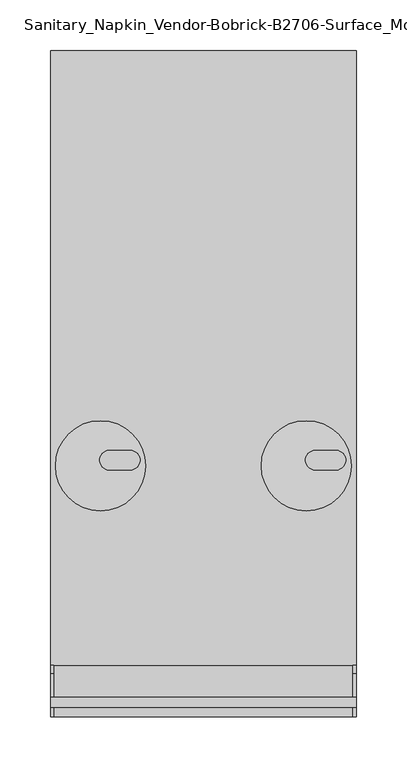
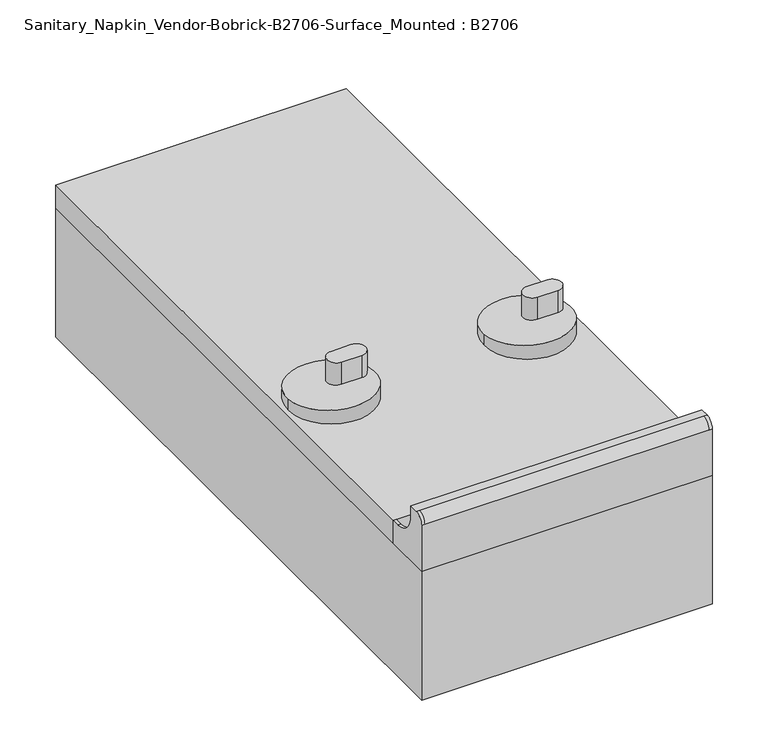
"""IFC4 building model written with IfcOpenShell, lengths in millimetres: proxy geometry, Sanitary_Napkin_Vendor-Bobrick-B2706-Surface_Mounted : B2706."""

from ifc_helpers import new_model, si_unit, frame, origin, origin_with_axes, place, context, project, spatial, polyline, circle_curve, ellipse_curve, outline, extrude, source, transform, mapped, element, save
from ifc_brep_helpers import plane_surface, cylinder_surface, revolved_surface, advanced_brep


def sanitary_napkin_vendor_bobrick_b2706_surface_mounted_b2706_1ca780e9(model_context):
    return source(origin(), model_context, "Body", "SolidModel", [
        advanced_brep(
        [(57.15, -409.575, 178.59375), (101.6, -454.025, 182.5625), (146.05, -409.575, 178.59375), (101.6, -365.125, 174.625), (130.96875, -413.6429688, 178.9569615), (110.33125, -413.6429688, 178.9569615), (110.33125, -394.3945313, 177.238351), (130.96875, -394.3945313, 177.238351), (57.15, -409.575, 166.6875), (146.05, -409.575, 166.6875), (110.33125, -413.6429688, 203.2), (130.96875, -413.6429688, 203.2), (130.96875, -394.3945313, 203.2), (110.33125, -394.3945313, 203.2)],
        [
            (0, 1, ellipse_curve(frame((101.6, -409.575, 178.59375), z_axis=(0.0, 0.08893193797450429, 0.996037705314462), x_axis=(0.0, -0.9960377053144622, 0.08893193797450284)), 44.6268246, 44.45)),
            (1, 2, ellipse_curve(frame((101.6, -409.575, 178.59375), z_axis=(0.0, 0.08893193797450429, 0.996037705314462), x_axis=(0.0, -0.9960377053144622, 0.08893193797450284)), 44.6268246, 44.45)),
            (2, 3, ellipse_curve(frame((101.6, -409.575, 178.59375), z_axis=(0.0, 0.08893193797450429, 0.996037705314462), x_axis=(0.0, -0.9960377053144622, 0.08893193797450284)), 44.6268246, 44.45)),
            (3, 0, ellipse_curve(frame((101.6, -409.575, 178.59375), z_axis=(0.0, 0.08893193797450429, 0.996037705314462), x_axis=(0.0, -0.9960377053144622, 0.08893193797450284)), 44.6268246, 44.45)),
            (4, 5),
            (5, 6, ellipse_curve(frame((110.33125, -404.01875, 178.0976562), z_axis=(0.0, -0.08893193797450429, -0.996037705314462), x_axis=(0.0, -0.9960377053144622, 0.08893193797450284)), 9.6625044, 9.6242188)),
            (6, 7),
            (7, 4, ellipse_curve(frame((130.96875, -404.01875, 178.0976562), z_axis=(0.0, -0.08893193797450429, -0.996037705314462), x_axis=(0.0, -0.9960377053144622, 0.08893193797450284)), 9.6625044, 9.6242188)),
            (8, 9, circle_curve(frame((101.6, -409.575, 166.6875), z_axis=(0.0, 0.0, -1.0), x_axis=(1.0, 0.0, 0.0)), 44.45)),
            (9, 8, circle_curve(frame((101.6, -409.575, 166.6875), z_axis=(0.0, 0.0, -1.0), x_axis=(1.0, 0.0, 0.0)), 44.45)),
            (9, 2),
            (0, 8),
            (10, 11),
            (11, 12, circle_curve(frame((130.96875, -404.01875, 203.2), z_axis=(0.0, 0.0, 1.0), x_axis=(1.0, 0.0, 0.0)), 9.6242188)),
            (12, 13),
            (13, 10, circle_curve(frame((110.33125, -404.01875, 203.2), z_axis=(0.0, 0.0, 1.0), x_axis=(1.0, 0.0, 0.0)), 9.6242187)),
            (10, 5),
            (4, 11),
            (7, 12),
            (6, 13),
        ],
        [
            plane_surface(frame((176.2125, -454.025, 182.5625), z_axis=(0.0, 0.08893193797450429, 0.996037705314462), x_axis=(-1.0, 0.0, 0.0))),
            plane_surface(frame((146.05, -409.575, 166.6875), z_axis=(0.0, 0.0, -1.0), x_axis=(0.0, -1.0, 0.0))),
            cylinder_surface(frame((101.6, -409.575, 166.6875), z_axis=(0.0, 0.0, 1.0), x_axis=(1.0, 0.0, 0.0)), 44.45),
            plane_surface(frame((110.33125, -413.6429688, 203.2), z_axis=(0.0, 0.0, 1.0), x_axis=(1.0, 0.0, 0.0))),
            plane_surface(frame((110.33125, -413.6429688, 203.2), z_axis=(0.0, -1.0, 0.0), x_axis=(0.0, 0.0, -1.0))),
            cylinder_surface(frame((130.96875, -404.01875, 166.6875), z_axis=(0.0, 0.0, 1.0), x_axis=(1.0, 0.0, 0.0)), 9.6242188),
            plane_surface(frame((130.96875, -394.3945313, 203.2), z_axis=(0.0, 1.0, 0.0), x_axis=(0.0, 0.0, -1.0))),
            cylinder_surface(frame((110.33125, -404.01875, 166.6875), z_axis=(0.0, 0.0, 1.0), x_axis=(1.0, 0.0, 0.0)), 9.6242188),
        ],
        [
            (0, [[1, 2, 3, 4], [5, 6, 7, 8]]),
            (1, [[9, 10]]),
            (2, [[-10, 11, -2, -1, 12]]),
            (2, [[-9, -12, -4, -3, -11]]),
            (3, [[13, 14, 15, 16]]),
            (4, [[-13, 17, -5, 18]]),
            (5, [[-14, -18, -8, 19]]),
            (6, [[-15, -19, -7, 20]]),
            (7, [[-16, -20, -6, -17]]),
        ],
    ),
        advanced_brep(
        [(-101.6, -454.025, 182.5625), (-57.15, -409.575, 178.59375), (-101.6, -365.125, 174.625), (-146.05, -409.575, 178.59375), (-72.23125, -413.6596929, 178.9584547), (-92.86875, -413.6596929, 178.9584547), (-92.86875, -394.3778071, 177.2368578), (-72.23125, -394.3778071, 177.2368578), (-92.86875, -413.6596929, 203.2), (-72.23125, -413.6596929, 203.2), (-72.23125, -394.3778071, 203.2), (-92.86875, -394.3778071, 203.2), (-146.05, -409.575, 166.6875), (-57.15, -409.575, 166.6875)],
        [
            (0, 1, ellipse_curve(frame((-101.6, -409.575, 178.59375), z_axis=(0.0, 0.08893193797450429, 0.996037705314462), x_axis=(0.0, -0.9960377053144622, 0.08893193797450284)), 44.6268246, 44.45)),
            (1, 2, ellipse_curve(frame((-101.6, -409.575, 178.59375), z_axis=(0.0, 0.08893193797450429, 0.996037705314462), x_axis=(0.0, -0.9960377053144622, 0.08893193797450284)), 44.6268246, 44.45)),
            (2, 3, ellipse_curve(frame((-101.6, -409.575, 178.59375), z_axis=(0.0, 0.08893193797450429, 0.996037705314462), x_axis=(0.0, -0.9960377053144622, 0.08893193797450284)), 44.6268246, 44.45)),
            (3, 0, ellipse_curve(frame((-101.6, -409.575, 178.59375), z_axis=(0.0, 0.08893193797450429, 0.996037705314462), x_axis=(0.0, -0.9960377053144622, 0.08893193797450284)), 44.6268246, 44.45)),
            (4, 5),
            (5, 6, ellipse_curve(frame((-92.86875, -404.01875, 178.0976562), z_axis=(0.0, -0.08893193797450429, -0.996037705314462), x_axis=(0.0, -0.9960377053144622, 0.08893193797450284)), 9.6792951, 9.6409429)),
            (6, 7),
            (7, 4, ellipse_curve(frame((-72.23125, -404.01875, 178.0976562), z_axis=(0.0, -0.08893193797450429, -0.996037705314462), x_axis=(0.0, -0.9960377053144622, 0.08893193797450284)), 9.6792951, 9.6409429)),
            (8, 9),
            (9, 10, circle_curve(frame((-72.23125, -404.01875, 203.2), z_axis=(0.0, 0.0, 1.0), x_axis=(1.0, 0.0, 0.0)), 9.6409429)),
            (10, 11),
            (11, 8, circle_curve(frame((-92.86875, -404.01875, 203.2), z_axis=(0.0, 0.0, 1.0), x_axis=(1.0, 0.0, 0.0)), 9.6409429)),
            (8, 5),
            (4, 9),
            (7, 10),
            (6, 11),
            (12, 13, circle_curve(frame((-101.6, -409.575, 166.6875), z_axis=(0.0, 0.0, -1.0), x_axis=(1.0, 0.0, 0.0)), 44.45)),
            (13, 12, circle_curve(frame((-101.6, -409.575, 166.6875), z_axis=(0.0, 0.0, -1.0), x_axis=(1.0, 0.0, 0.0)), 44.45)),
            (13, 1),
            (3, 12),
        ],
        [
            plane_surface(frame((176.2125, -454.025, 182.5625), z_axis=(0.0, 0.08893193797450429, 0.996037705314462), x_axis=(-1.0, 0.0, 0.0))),
            plane_surface(frame((-72.23125, -413.6596929, 203.2), z_axis=(0.0, 0.0, 1.0), x_axis=(1.0, 0.0, 0.0))),
            plane_surface(frame((-92.86875, -413.6596929, 203.2), z_axis=(0.0, -1.0, 0.0), x_axis=(0.0, 0.0, -1.0))),
            cylinder_surface(frame((-72.23125, -404.01875, 166.6875), z_axis=(0.0, 0.0, 1.0), x_axis=(1.0, 0.0, 0.0)), 9.6409429),
            plane_surface(frame((-72.23125, -394.3778071, 203.2), z_axis=(0.0, 1.0, 0.0), x_axis=(0.0, 0.0, -1.0))),
            cylinder_surface(frame((-92.86875, -404.01875, 166.6875), z_axis=(0.0, 0.0, 1.0), x_axis=(1.0, 0.0, 0.0)), 9.6409429),
            plane_surface(frame((-57.15, -409.575, 166.6875), z_axis=(0.0, 0.0, -1.0), x_axis=(0.0, -1.0, 0.0))),
            cylinder_surface(frame((-101.6, -409.575, 166.6875), z_axis=(0.0, 0.0, 1.0), x_axis=(1.0, 0.0, 0.0)), 44.45),
        ],
        [
            (0, [[1, 2, 3, 4], [5, 6, 7, 8]]),
            (1, [[9, 10, 11, 12]]),
            (2, [[-9, 13, -5, 14]]),
            (3, [[-10, -14, -8, 15]]),
            (4, [[-11, -15, -7, 16]]),
            (5, [[-12, -16, -6, -13]]),
            (6, [[17, 18]]),
            (7, [[-18, 19, -1, -4, 20]]),
            (7, [[-17, -20, -3, -2, -19]]),
        ],
    ),
        advanced_brep(
        [(150.8125, -657.225, 141.2875), (150.8125, -606.425, 141.2875), (150.8125, -606.425, 166.6875), (150.8125, -614.3625, 166.6875), (150.8125, -638.175, 190.5), (150.8125, -638.175, 201.6125), (150.8125, -647.7, 201.6125), (150.8125, -657.225, 192.0875), (147.6375, -638.175, 190.5), (147.6375, -614.3625, 166.6875), (147.6375, -606.425, 166.6875), (147.6375, -606.425, 141.2875), (147.6375, -654.05, 141.2875), (147.6375, -654.05, 192.0875), (147.6375, -647.7, 198.4375), (147.6375, -638.175, 198.4375), (-150.8125, -606.425, 141.2875), (-147.6375, -606.425, 141.2875), (-147.6375, -654.05, 141.2875), (-150.8125, -657.225, 141.2875), (-147.6375, -638.175, 198.4375), (-147.6375, -638.175, 190.5), (-150.8125, -638.175, 190.5), (-150.8125, -638.175, 201.6125), (-150.8125, -647.7, 201.6125), (-147.6375, -647.7, 201.6125), (147.6375, -647.7, 201.6125), (147.6375, -657.225, 192.0875), (-147.6375, -657.225, 192.0875), (-150.8125, -657.225, 192.0875), (-147.6375, -606.425, 166.6875), (-147.6375, -614.3625, 166.6875), (-147.6375, -647.7, 198.4375), (-147.6375, -654.05, 192.0875), (-150.8125, -614.3625, 166.6875), (-150.8125, -606.425, 166.6875)],
        [
            (0, 1),
            (1, 2),
            (2, 3),
            (3, 4, circle_curve(frame((150.8125, -614.3625, 190.5), z_axis=(-1.0, 0.0, 0.0), x_axis=(0.0, 1.0, 0.0)), 23.8125)),
            (4, 5),
            (5, 6),
            (6, 7, circle_curve(frame((150.8125, -647.7, 192.0875), z_axis=(1.0, 0.0, 0.0), x_axis=(0.0, 1.0, 0.0)), 9.525)),
            (7, 0),
            (8, 9, circle_curve(frame((147.6375, -614.3625, 190.5), z_axis=(1.0, 0.0, 0.0), x_axis=(0.0, 1.0, 0.0)), 23.8125)),
            (9, 10),
            (10, 11),
            (11, 12),
            (12, 13),
            (13, 14, circle_curve(frame((147.6375, -647.7, 192.0875), z_axis=(-1.0, 0.0, 0.0), x_axis=(0.0, 0.0, 1.0)), 6.35)),
            (14, 15),
            (15, 8),
            (16, 17),
            (17, 18),
            (18, 12),
            (11, 1),
            (0, 19),
            (19, 16),
            (10, 2),
            (9, 3),
            (8, 4),
            (15, 20),
            (20, 21),
            (21, 22),
            (22, 23),
            (23, 5),
            (23, 24),
            (24, 25),
            (25, 26),
            (26, 6),
            (26, 27, circle_curve(frame((147.6375, -647.7, 192.0875), z_axis=(1.0, 0.0, 0.0), x_axis=(0.0, 1.0, 0.0)), 9.525)),
            (27, 7),
            (27, 28),
            (28, 29),
            (29, 19),
            (17, 30),
            (30, 31),
            (31, 21, circle_curve(frame((-147.6375, -614.3625, 190.5), z_axis=(-1.0, 0.0, 0.0), x_axis=(0.0, 1.0, 0.0)), 23.8125)),
            (20, 32),
            (32, 33, circle_curve(frame((-147.6375, -647.7, 192.0875), z_axis=(1.0, 0.0, 0.0), x_axis=(0.0, 0.0, 1.0)), 6.35)),
            (33, 18),
            (22, 34, circle_curve(frame((-150.8125, -614.3625, 190.5), z_axis=(1.0, 0.0, 0.0), x_axis=(0.0, 1.0, 0.0)), 23.8125)),
            (34, 35),
            (35, 16),
            (29, 24, circle_curve(frame((-150.8125, -647.7, 192.0875), z_axis=(-1.0, 0.0, 0.0), x_axis=(0.0, 1.0, 0.0)), 9.525)),
            (28, 25, circle_curve(frame((-147.6375, -647.7, 192.0875), z_axis=(-1.0, 0.0, 0.0), x_axis=(0.0, 1.0, 0.0)), 9.525)),
            (35, 30),
            (34, 31),
            (14, 32),
            (13, 33),
        ],
        [
            plane_surface(frame((150.8125, -658.8125, 141.2875), z_axis=(1.0, 0.0, 0.0), x_axis=(0.0, 1.0, 0.0))),
            plane_surface(frame((147.6375, -658.8125, 141.2875), z_axis=(-1.0, 0.0, 0.0), x_axis=(0.0, -1.0, 0.0))),
            plane_surface(frame((150.8125, -657.225, 141.2875), z_axis=(0.0, 0.0, -1.0), x_axis=(-1.0, 0.0, 0.0))),
            plane_surface(frame((150.8125, -606.425, 141.2875), z_axis=(0.0, 1.0, 0.0), x_axis=(-1.0, 0.0, 0.0))),
            plane_surface(frame((150.8125, -606.425, 166.6875), z_axis=(0.0, 0.0, 1.0), x_axis=(-1.0, 0.0, 0.0))),
            revolved_surface(polyline([(147.6375, -590.55, 190.5), (150.8125, -590.55, 190.5)]), (147.6375, -614.3625, 190.5), (-1.0, 0.0, 0.0)),
            plane_surface(frame((150.8125, -638.175, 190.5), z_axis=(0.0, 1.0, 0.0), x_axis=(-1.0, 0.0, 0.0))),
            plane_surface(frame((150.8125, -638.175, 201.6125), z_axis=(0.0, 0.0, 1.0), x_axis=(-1.0, 0.0, 0.0))),
            cylinder_surface(frame((147.6375, -647.7, 192.0875), z_axis=(1.0, 0.0, 0.0), x_axis=(0.0, 1.0, 0.0)), 9.525),
            plane_surface(frame((150.8125, -657.225, 192.0875), z_axis=(0.0, -1.0, 0.0), x_axis=(-1.0, 0.0, 0.0))),
            plane_surface(frame((-147.6375, -638.175, 201.6125), z_axis=(1.0, 0.0, 0.0), x_axis=(0.0, 0.0, 1.0))),
            plane_surface(frame((-150.8125, -638.175, 201.6125), z_axis=(-1.0, 0.0, 0.0), x_axis=(0.0, 0.0, -1.0))),
            cylinder_surface(frame((-150.8125, -647.7, 192.0875), z_axis=(1.0, 0.0, 0.0), x_axis=(0.0, 1.0, 0.0)), 9.525),
            plane_surface(frame((-147.6375, -606.425, 141.2875), z_axis=(0.0, 1.0, 0.0), x_axis=(-1.0, 0.0, 0.0))),
            plane_surface(frame((-147.6375, -606.425, 166.6875), z_axis=(0.0, 0.0, 1.0), x_axis=(-1.0, 0.0, 0.0))),
            revolved_surface(polyline([(-150.8125, -590.55, 190.5), (-147.6375, -590.55, 190.5)]), (-150.8125, -614.3625, 190.5), (-1.0, 0.0, 0.0)),
            plane_surface(frame((150.8125, -638.175, 198.4375), z_axis=(0.0, 0.0, -1.0), x_axis=(0.0, -1.0, 0.0))),
            cylinder_surface(frame((0.0, -647.7, 192.0875), z_axis=(1.0, 0.0, 0.0), x_axis=(0.0, 0.0, 1.0)), 9.525),
            revolved_surface(polyline([(147.6375, -647.7, 198.4375), (-147.6375, -647.7, 198.4375)]), (0.0, -647.7, 192.0875), (1.0, 0.0, 0.0)),
            plane_surface(frame((150.8125, -654.05, 192.0875), z_axis=(0.0, 1.0, 0.0), x_axis=(0.0, 0.0, -1.0))),
        ],
        [
            (0, [[1, 2, 3, 4, 5, 6, 7, 8]]),
            (1, [[9, 10, 11, 12, 13, 14, 15, 16]]),
            (2, [[17, 18, 19, -12, 20, -1, 21, 22]]),
            (3, [[-2, -20, -11, 23]]),
            (4, [[-3, -23, -10, 24]]),
            (5, [[-4, -24, -9, 25]]),
            (6, [[-25, -16, 26, 27, 28, 29, 30, -5]]),
            (7, [[-6, -30, 31, 32, 33, 34]]),
            (8, [[-7, -34, 35, 36]]),
            (9, [[-21, -8, -36, 37, 38, 39]]),
            (10, [[40, 41, 42, -27, 43, 44, 45, -18]]),
            (11, [[-29, 46, 47, 48, -22, -39, 49, -31]]),
            (12, [[-49, -38, 50, -32]]),
            (13, [[-40, -17, -48, 51]]),
            (14, [[-41, -51, -47, 52]]),
            (15, [[-42, -52, -46, -28]]),
            (16, [[-26, -15, 53, -43]]),
            (17, [[-33, -50, -37, -35]]),
            (18, [[-53, -14, 54, -44]]),
            (19, [[-19, -45, -54, -13]]),
        ],
    ),
        extrude(outline(polyline([(150.8125, 0.0), (150.8125, -606.425), (-150.8125, -606.425), (-150.8125, 0.0), (150.8125, 0.0)])), frame((0.0, 0.0, 141.2875), z_axis=(0.0, 0.0, 1.0), x_axis=(1.0, 0.0, 0.0)), (0.0, 0.0, 1.0), 25.4),
        extrude(outline(polyline([(150.8125, 0.0), (150.8125, -657.225), (-150.8125, -657.225), (-150.8125, 0.0), (150.8125, 0.0)])), origin_with_axes(), (0.0, 0.0, 1.0), 141.2875),
    ])


if __name__ == "__main__":
    model = new_model("IFC4")
    model_context = context("Model", 3, world=origin())
    ifc_project = project(units=[si_unit("LENGTHUNIT", "METRE", prefix="MILLI")], contexts=[model_context])
    site = spatial("IfcSite", under=ifc_project)
    building = spatial("IfcBuilding", under=site)
    placement = place(None, origin())
    sanitary_napkin_vendor_bobrick_b2706_surface_mounted_b2706_shape = sanitary_napkin_vendor_bobrick_b2706_surface_mounted_b2706_1ca780e9(model_context)
    element("IfcBuildingElementProxy", 1, Name="Sanitary_Napkin_Vendor-Bobrick-B2706-Surface_Mounted : B2706", ObjectType="Sanitary_Napkin_Vendor-Bobrick-B2706-Surface_Mounted : B2706", at=placement, inside=building, context=model_context, shape_type="MappedRepresentation", body=[
        mapped(sanitary_napkin_vendor_bobrick_b2706_surface_mounted_b2706_shape, transform((0.0, 0.0, 0.0), x_axis=(1.0, 0.0, 0.0), y_axis=(0.0, 1.0, 0.0), z_axis=(0.0, 0.0, 1.0))),
    ])
    save(model, "model.ifc")
